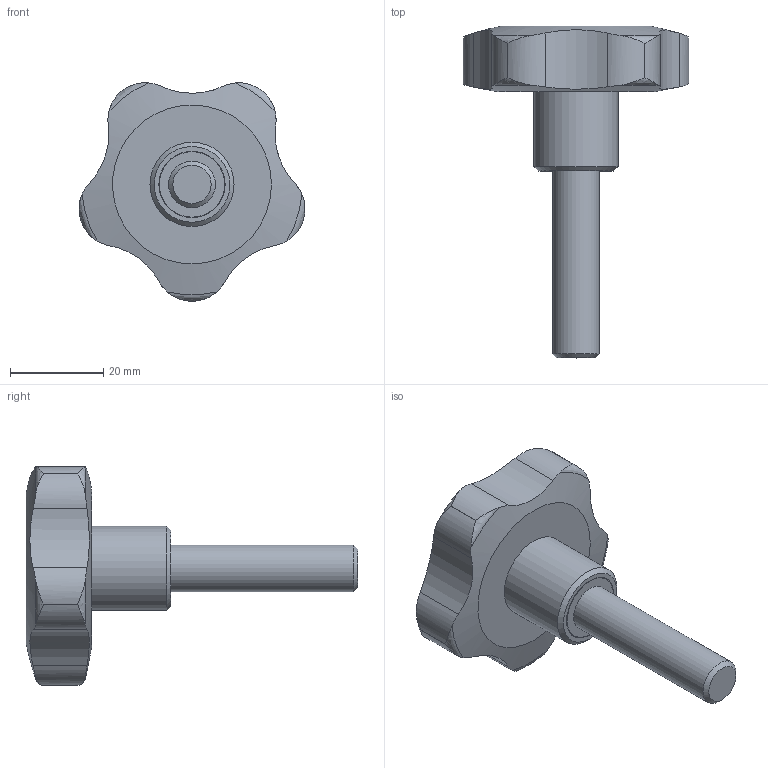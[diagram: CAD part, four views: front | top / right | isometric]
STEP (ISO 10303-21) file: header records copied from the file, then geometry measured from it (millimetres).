
FILE_DESCRIPTION( ( 'STEP AP203' ), '1' );
FILE_NAME( 'C:/Temp/Ganter_Step_05_03_2020/data/2_2/gn_5337_4/gn_5337_4_s/Star knob GN 5337.4-50-M10-40.stp', '2020-03-05T12:09:49', ( 'License CC BY-ND 4.0' ), ( 'CADENAS' ), ' ', 'PARTsolutions', ' ' );
FILE_SCHEMA( ( 'CONFIG_CONTROL_DESIGN' ) );
Length unit declared in the file: millimetre
Products named in the file (1): _Star knob GN 5337.4-50-M10-40
Bounding box: 48.33 x 71 x 46.75 mm (x, y, z)
Volume: 27674.3 mm3; surface area: 7059.5 mm2
Topology: 1 solids, 1 shells, 44 faces, 115 edges, 76 vertices
Faces by surface type: cylinder 24, torus 10, plane 5, cone 3, bspline 1, sphere 1
Full cylindrical faces by diameter (mm): 10 x1, 14 x1, 14.2 x1, 18 x1
Entity records: 1975 total; most frequent: CARTESIAN_POINT 974, ORIENTED_EDGE 204, DIRECTION 172, EDGE_CURVE 102, AXIS2_PLACEMENT_3D 76, VERTEX_POINT 74, EDGE_LOOP 56, B_SPLINE_CURVE_WITH_KNOTS 50
